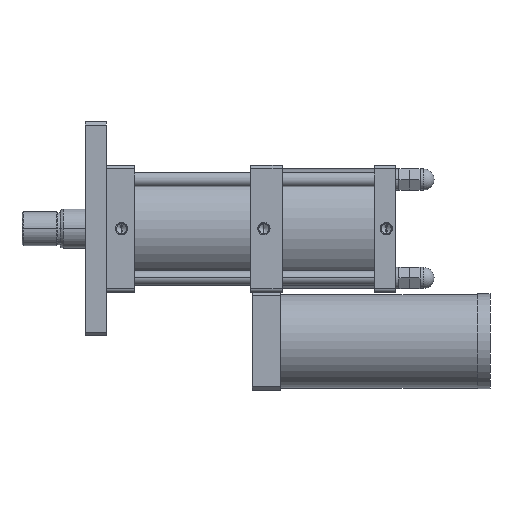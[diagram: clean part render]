
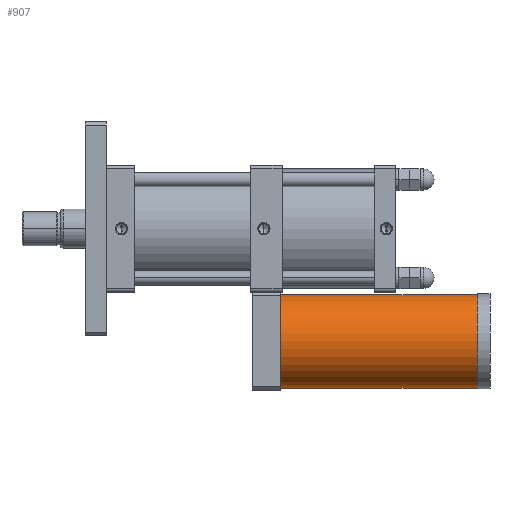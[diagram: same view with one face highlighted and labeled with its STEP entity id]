
A CAD part, front view. The second image highlights one B-rep face of the part: STEP entity #907.
In plain terms, the highlighted cylindrical face has radius 66.5 mm (diameter 133 mm), a partial arc.
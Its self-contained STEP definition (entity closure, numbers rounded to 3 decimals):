
#32 = CARTESIAN_POINT ( 'NONE',  ( 647.5, 0., -160. ) ) ;
#289 = CARTESIAN_POINT ( 'NONE',  ( 367.5, 0., -160. ) ) ;
#570 = VERTEX_POINT ( 'NONE', #1625 ) ;
#634 = CARTESIAN_POINT ( 'NONE',  ( 647.5, 0., -93.5 ) ) ;
#834 = CARTESIAN_POINT ( 'NONE',  ( 647.5, 0., -160. ) ) ;
#907 = ADVANCED_FACE ( 'NONE', ( #8618 ), #3088, .T. ) ;
#987 = DIRECTION ( 'NONE',  ( 0., 0., -1. ) ) ;
#1552 = DIRECTION ( 'NONE',  ( 0., 0., -1. ) ) ;
#1557 = ORIENTED_EDGE ( 'NONE', *, *, #5636, .T. ) ;
#1565 = VERTEX_POINT ( 'NONE', #6671 ) ;
#1625 = CARTESIAN_POINT ( 'NONE',  ( 367.5, 0., -226.5 ) ) ;
#2049 = ORIENTED_EDGE ( 'NONE', *, *, #4797, .F. ) ;
#2151 = CIRCLE ( 'NONE', #2791, 66.5 ) ;
#2165 = DIRECTION ( 'NONE',  ( 0., 0., 1. ) ) ;
#2791 = AXIS2_PLACEMENT_3D ( 'NONE', #834, #5747, #1552 ) ;
#3085 = AXIS2_PLACEMENT_3D ( 'NONE', #289, #5182, #987 ) ;
#3088 = CYLINDRICAL_SURFACE ( 'NONE', #3406, 66.5 ) ;
#3186 = EDGE_CURVE ( 'NONE', #5767, #570, #4597, .T. ) ;
#3406 = AXIS2_PLACEMENT_3D ( 'NONE', #32, #6340, #2165 ) ;
#3660 = CARTESIAN_POINT ( 'NONE',  ( 647.5, 0., -226.5 ) ) ;
#3819 = DIRECTION ( 'NONE',  ( -1., 0., 0. ) ) ;
#4597 = CIRCLE ( 'NONE', #3085, 66.5 ) ;
#4797 = EDGE_CURVE ( 'NONE', #7978, #1565, #2151, .T. ) ;
#5182 = DIRECTION ( 'NONE',  ( 1., 0., 0. ) ) ;
#5366 = CARTESIAN_POINT ( 'NONE',  ( 367.5, 0., -93.5 ) ) ;
#5636 = EDGE_CURVE ( 'NONE', #7978, #5767, #6279, .T. ) ;
#5747 = DIRECTION ( 'NONE',  ( 1., 0., 0. ) ) ;
#5753 = VECTOR ( 'NONE', #5775, 1000. ) ;
#5767 = VERTEX_POINT ( 'NONE', #5366 ) ;
#5775 = DIRECTION ( 'NONE',  ( -1., 0., 0. ) ) ;
#5926 = CARTESIAN_POINT ( 'NONE',  ( 647.5, 0., -93.5 ) ) ;
#6279 = LINE ( 'NONE', #5926, #8554 ) ;
#6340 = DIRECTION ( 'NONE',  ( -1., 0., 0. ) ) ;
#6671 = CARTESIAN_POINT ( 'NONE',  ( 647.5, 0., -226.5 ) ) ;
#6777 = EDGE_CURVE ( 'NONE', #1565, #570, #7554, .T. ) ;
#7554 = LINE ( 'NONE', #3660, #5753 ) ;
#7662 = ORIENTED_EDGE ( 'NONE', *, *, #6777, .F. ) ;
#7978 = VERTEX_POINT ( 'NONE', #634 ) ;
#7987 = EDGE_LOOP ( 'NONE', ( #7662, #2049, #1557, #8071 ) ) ;
#8071 = ORIENTED_EDGE ( 'NONE', *, *, #3186, .T. ) ;
#8554 = VECTOR ( 'NONE', #3819, 1000. ) ;
#8618 = FACE_OUTER_BOUND ( 'NONE', #7987, .T. ) ;
